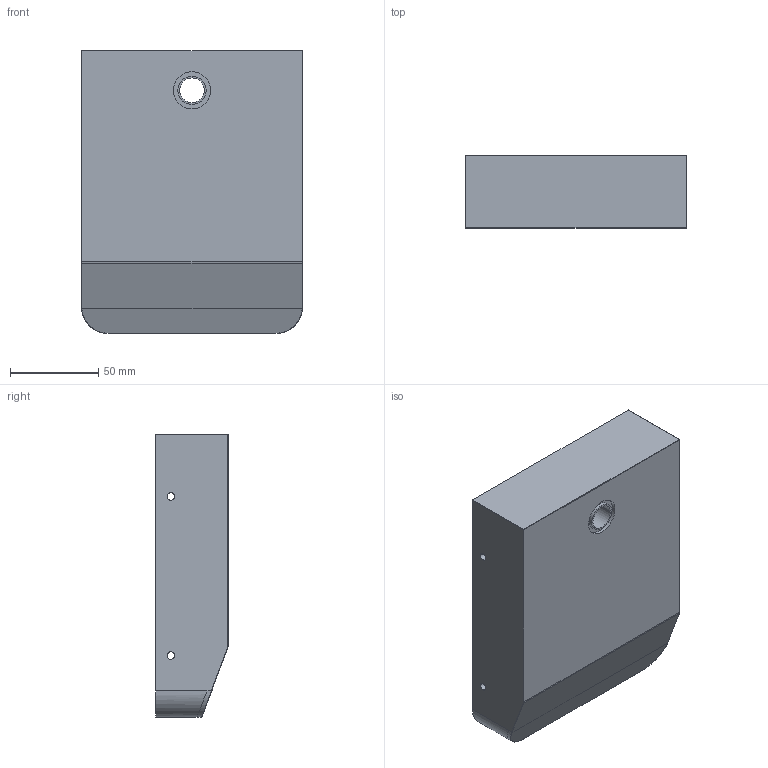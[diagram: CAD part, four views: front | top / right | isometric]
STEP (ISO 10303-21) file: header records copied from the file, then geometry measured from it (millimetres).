
FILE_DESCRIPTION(('CATIA V5 STEP Exchange'),'2;1');
FILE_NAME('G:\GaaPro\luo\5.待开发项目\1.壁灯\GW-025\GW-025.stp','2026-07-03T03:43:34+00:00',('none'),('none'),'CATIA Version 5-6 Release 2018','CATIA V5 STEP AP203','none');
FILE_SCHEMA(('CONFIG_CONTROL_DESIGN'));
Length unit declared in the file: millimetre
Products named in the file (1): 灯体-A.1.1
Bounding box: 125 x 41 x 160 mm (x, y, z)
Volume: 145327.3 mm3; surface area: 85392.2 mm2
Topology: 1 solids, 1 shells, 529 faces, 1528 edges, 984 vertices
Faces by surface type: plane 237, cylinder 207, sphere 76, bspline 4, extrusion 3, torus 2
Entity records: 16406 total; most frequent: CARTESIAN_POINT 3653, ORIENTED_EDGE 2904, DIRECTION 2083, EDGE_CURVE 1452, VERTEX_POINT 984, AXIS2_PLACEMENT_3D 950, VECTOR 789, LINE 786
